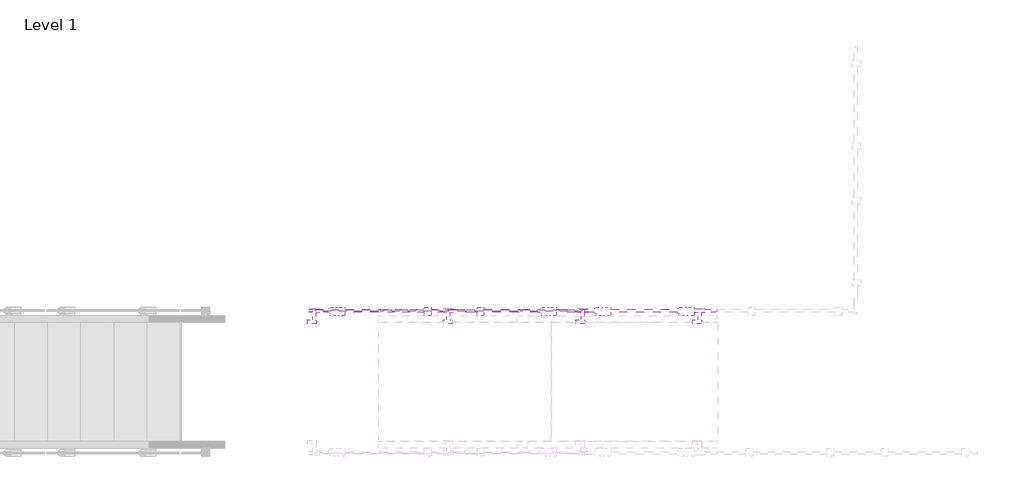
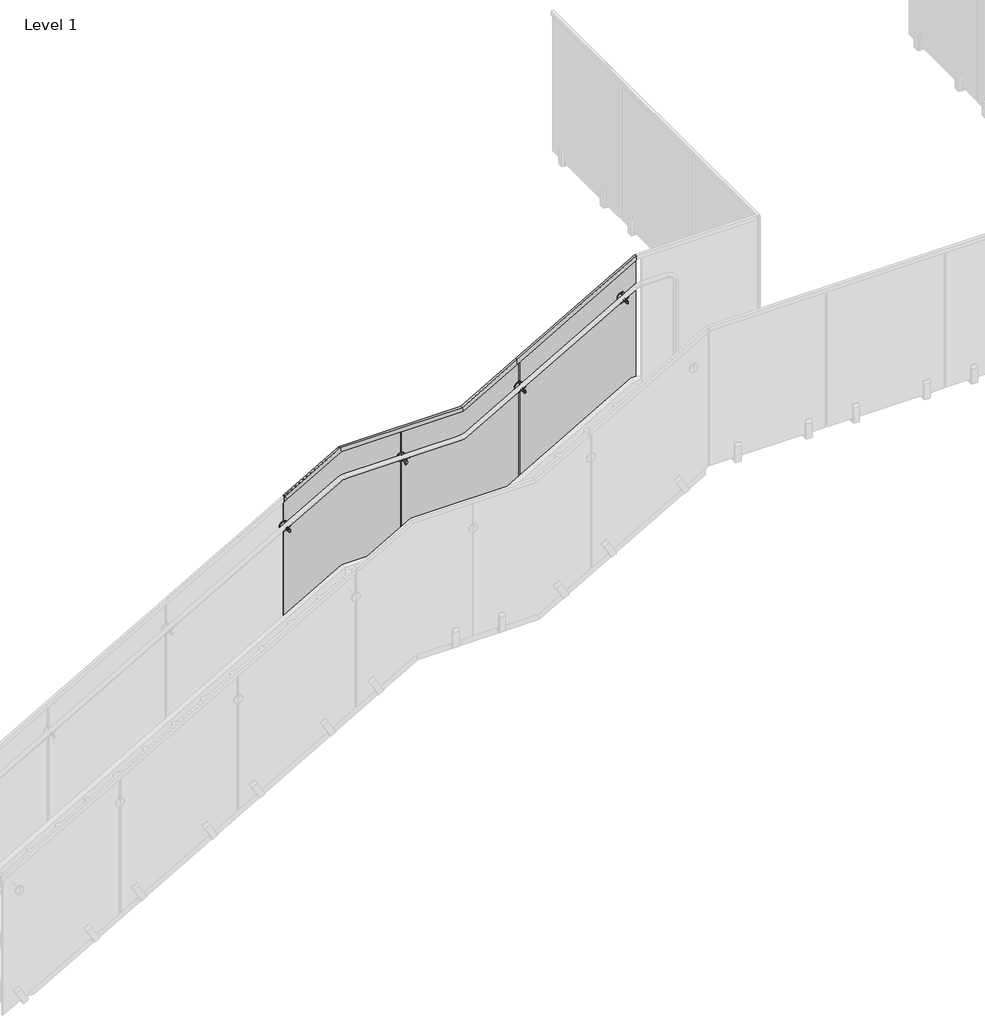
# One storey, part 11 of 17: 4 railings.
"""IFC4 building model written with IfcOpenShell, lengths in millimetres."""

from ifc_helpers import new_model, si_unit, point, frame, frame_2d, origin, place, context, project, spatial, polyline, circle_curve, trimmed, segment, composite_curve, outline, extrude, faceted_brep, transform, mapped, element, save
from ifc_brep_helpers import plane_surface, cylinder_surface, revolved_surface, advanced_brep
from components import standard_glass_7c6d0ad3, standard_glass_aa243ce5

model = new_model("IFC4")

# Units and contexts
model_context = context("Model", 3, world=origin())
ifc_project = project(units=[si_unit("LENGTHUNIT", "METRE", prefix="MILLI")], contexts=[model_context])

# Site, building, storey
site = spatial("IfcSite", under=ifc_project)
building = spatial("IfcBuilding", under=site)
storey = spatial("IfcBuildingStorey", under=building, Name="Level 1", Elevation=0.0)

# Railings
placement = place(None, origin())
element("IfcRailing", 1, ObjectType="VIVA-VISIO-Glass-Steel Fascia Mount-Stair-Landing", at=placement, inside=storey, context=model_context, shape_type="SolidModel", body=[
    faceted_brep([(27379.4112561, -11562.8278486, 2993.5714286), (27379.4112561, -11584.5567549, 2993.5714286), (27862.0112561, -11584.5567549, 3269.3428571), (27862.0112561, -11562.8278486, 3269.3428571), (27398.3141496, -11562.8278486, 2960.4913649), (27872.1292611, -11562.8278486, 3231.2428571), (27398.3141496, -11567.3423017, 2960.4913649), (27872.1292611, -11567.3423017, 3231.2428571), (27381.3015454, -11567.3423017, 2990.2634222), (27863.0230566, -11567.3423017, 3265.5328571), (27381.3015454, -11580.0423017, 2990.2634222), (27863.0230566, -11580.0423017, 3265.5328571), (27398.3141496, -11580.0423017, 2960.4913649), (27872.1292611, -11580.0423017, 3231.2428571), (27398.3141496, -11584.5567549, 2960.4913649), (27872.1292611, -11584.5567549, 3231.2428571), (28928.8112561, -11584.5567549, 3269.3428571), (28928.8112561, -11562.8278486, 3269.3428571), (28938.9292611, -11562.8278486, 3231.2428571), (28938.9292611, -11567.3423017, 3231.2428571), (28929.8230566, -11567.3423017, 3265.5328571), (28929.8230566, -11580.0423017, 3265.5328571), (28938.9292611, -11580.0423017, 3231.2428571), (28938.9292611, -11584.5567549, 3231.2428571), (29407.4425061, -11584.5567549, 3542.8464286), (29407.4425061, -11584.5567549, 3498.9647114), (29407.4425061, -11580.0423017, 3498.9647114), (29407.4425061, -11580.0423017, 3538.4582569), (29407.4425061, -11567.3423017, 3538.4582569), (29407.4425061, -11567.3423017, 3498.9647114), (29407.4425061, -11562.8278486, 3498.9647114), (29407.4425061, -11562.8278486, 3542.8464286), (27369.8862561, -11584.5567549, 2988.1285714), (27369.8862561, -11562.8278486, 2988.1285714), (27369.8862561, -11562.8278486, 2944.2468543), (27369.8862561, -11567.3423017, 2944.2468543), (27369.8862561, -11567.3423017, 2983.7403997), (27369.8862561, -11580.0423017, 2983.7403997), (27369.8862561, -11580.0423017, 2944.2468543), (27369.8862561, -11584.5567549, 2944.2468543)], [[[0, 1, 2, 3]], [[4, 0, 3, 5]], [[6, 4, 5, 7]], [[8, 6, 7, 9]], [[10, 8, 9, 11]], [[12, 10, 11, 13]], [[14, 12, 13, 15]], [[1, 14, 15, 2]], [[3, 2, 16, 17]], [[5, 3, 17, 18]], [[7, 5, 18, 19]], [[9, 7, 19, 20]], [[11, 9, 20, 21]], [[13, 11, 21, 22]], [[15, 13, 22, 23]], [[2, 15, 23, 16]], [[24, 25, 26, 27, 28, 29, 30, 31]], [[17, 16, 24, 31]], [[18, 17, 31, 30]], [[19, 18, 30, 29]], [[20, 19, 29, 28]], [[21, 20, 28, 27]], [[22, 21, 27, 26]], [[23, 22, 26, 25]], [[16, 23, 25, 24]], [[32, 33, 34, 35, 36, 37, 38, 39]], [[33, 32, 1, 0]], [[34, 33, 0, 4]], [[35, 34, 4, 6]], [[36, 35, 6, 8]], [[37, 36, 8, 10]], [[38, 37, 10, 12]], [[39, 38, 12, 14]], [[32, 39, 14, 1]]]),
    extrude(outline(polyline([(0.0, -12.7), (0.0, 0.0), (50.8, 0.0), (50.8, -12.7), (0.0, -12.7)])), frame((29178.329198, -11599.1617549, 2085.3316006), z_axis=(-0.4961389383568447, 0.0, 0.868243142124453), x_axis=(0.868243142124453, 0.0, 0.4961389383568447)), (0.0, 0.0, 1.0), 135.5680003),
    extrude(outline(polyline([(0.0, -12.7), (0.0, 0.0), (50.8, 0.0), (50.8, -12.7), (0.0, -12.7)])), frame((29179.5727872, -11567.4117549, 2083.1553196), z_axis=(-0.496138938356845, 0.0, 0.8682431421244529), x_axis=(0.8682431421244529, 0.0, 0.496138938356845)), (0.0, 0.0, 1.0), 36.5125),
    extrude(outline(polyline([(0.0, 0.0), (139.7, 0.0), (166.6875, -11.1125), (166.6875, -19.05), (0.0, -19.05), (0.0, 0.0)])), frame((29179.5727872, -11599.1617549, 2083.1553196), z_axis=(0.868243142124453, 0.0, 0.49613893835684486), x_axis=(-0.49613893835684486, 0.0, 0.868243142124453)), (0.0, 0.0, 1.0), 50.8),
    extrude(outline(polyline([(0.0, -50.8), (0.0, -31.75), (166.6875, -31.75), (166.6875, -39.6875), (139.7, -50.8), (0.0, -50.8)])), frame((29179.5727872, -11599.1617549, 2083.1553196), z_axis=(0.868243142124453, 0.0, 0.49613893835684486), x_axis=(-0.49613893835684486, 0.0, 0.868243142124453)), (0.0, 0.0, 1.0), 50.8),
    extrude(outline(polyline([(28616.8479341, -11611.8617549), (28616.8479341, -11599.1617549), (28667.6479341, -11599.1617549), (28667.6479341, -11611.8617549), (28616.8479341, -11611.8617549)])), frame((0.0, 0.0, 1969.2196818), z_axis=(0.0, 0.0, 1.0), x_axis=(1.0, 0.0, 0.0)), (0.0, 0.0, 1.0), 135.5680003),
    extrude(outline(polyline([(28616.8479341, -11580.1117549), (28616.8479341, -11567.4117549), (28667.6479341, -11567.4117549), (28667.6479341, -11580.1117549), (28616.8479341, -11580.1117549)])), frame((0.0, 0.0, 1966.7131478), z_axis=(0.0, 0.0, 1.0), x_axis=(1.0, 0.0, 0.0)), (0.0, 0.0, 1.0), 36.5125),
    extrude(outline(polyline([(-11599.1617549, 1966.7131478), (-11599.1617549, 2106.4131478), (-11588.0492549, 2133.4006478), (-11580.1117549, 2133.4006478), (-11580.1117549, 1966.7131478), (-11599.1617549, 1966.7131478)])), frame((28616.8479341, 0.0, 0.0), z_axis=(1.0, 0.0, 0.0), x_axis=(0.0, 1.0, 0.0)), (0.0, 0.0, 1.0), 50.8),
    extrude(outline(polyline([(-11548.3617549, 1966.7131478), (-11567.4117549, 1966.7131478), (-11567.4117549, 2133.4006478), (-11559.4742549, 2133.4006478), (-11548.3617549, 2106.4131478), (-11548.3617549, 1966.7131478)])), frame((28616.8479341, 0.0, 0.0), z_axis=(1.0, 0.0, 0.0), x_axis=(0.0, 1.0, 0.0)), (0.0, 0.0, 1.0), 50.8),
    extrude(outline(composite_curve([segment(trimmed(circle_curve(frame_2d((0.0, 7.0)), 7.0), [point((0.0, 14.0))], [point((0.0, 0.0))], False, "CARTESIAN"), True, "CONTINUOUS"), segment(trimmed(circle_curve(frame_2d((0.0, 7.0)), 7.0), [point((0.0, 0.0))], [point((0.0, 14.0))], False, "CARTESIAN"), True, "CONTINUOUS")], self_intersect=False)), frame((28393.4268811, -11648.9816158, 2977.3279722), z_axis=(-0.0016124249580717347, 0.0, 0.9999987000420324), x_axis=(-0.9999987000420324, 0.0, -0.0016124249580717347)), (0.0, 0.0, 1.0), 52.8378352),
    extrude(outline(composite_curve([segment(trimmed(circle_curve(frame_2d((18.6575252, 0.3952033)), 19.05), [point((5.2466064, 13.9247915))], [point((5.2466064, -13.134385))], True, "CARTESIAN"), True, "CONTINUOUS"), segment(polyline([(5.2466064, -13.134385), (4.2292193, -14.1607746)]), True, "CONTINUOUS"), segment(trimmed(circle_curve(frame_2d((3.1638974, -13.1047967)), 1.5), [point((4.2292193, -14.1607746))], [point((2.0329757, -14.0901982))], False, "CARTESIAN"), True, "CONTINUOUS"), segment(trimmed(circle_curve(frame_2d((18.6575252, 0.3952033)), 22.05), [point((2.0329757, -14.0901982))], [point((2.0329757, 14.8806047))], False, "CARTESIAN"), True, "CONTINUOUS"), segment(trimmed(circle_curve(frame_2d((3.1638974, 13.8952033)), 1.5), [point((2.0329757, 14.8806047))], [point((4.2292193, 14.9511811))], False, "CARTESIAN"), True, "CONTINUOUS"), segment(polyline([(4.2292193, 14.9511811), (5.2466064, 13.9247915)]), True, "CONTINUOUS")], self_intersect=False)), frame((28429.1944392, -11657.7088481, 3033.4996008), z_axis=(-0.9999989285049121, 0.0, 0.0014638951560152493), x_axis=(0.0014638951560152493, 0.0, 0.9999989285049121)), (0.0, 0.0, 1.0), 74.5229187),
    extrude(outline(composite_curve([segment(trimmed(circle_curve(frame_2d((3002.8968571, 28393.4268811)), 11.0132813), [point((3002.8968571, 28404.4401623))], [point((3002.8968571, 28382.4135998))], False, "CARTESIAN"), True, "CONTINUOUS"), segment(trimmed(circle_curve(frame_2d((3002.8968571, 28393.4268811)), 11.0132813), [point((3002.8968571, 28382.4135998))], [point((3002.8968571, 28404.4401623))], False, "CARTESIAN"), True, "CONTINUOUS")], self_intersect=False)), frame((0.0, -11669.0117549, 0.0), z_axis=(0.0, 1.0, 0.0), x_axis=(0.0, 0.0, 1.0)), (0.0, 0.0, 1.0), 79.2757812),
    advanced_brep(
    [(28393.4268811, -11557.7875361, 3002.8968571), (28393.4268811, -11557.7875361, 2966.7812321), (28393.4268811, -11557.7875361, 3039.0124821), (28393.4268811, -11589.7359736, 2966.7812321), (28393.4268811, -11589.7359736, 3002.8968571), (28393.4268811, -11589.7359736, 3039.0124821), (28393.4268811, -11587.7515986, 2964.7968571), (28393.4268811, -11587.7515986, 3040.9968571), (28393.4268811, -11580.1117549, 2964.7968571), (28393.4268811, -11580.1117549, 3040.9968571), (28393.4268811, -11580.1117549, 2990.1968571), (28393.4268811, -11580.1117549, 3015.5968571), (28393.4268811, -11567.4117549, 2990.1968571), (28393.4268811, -11567.4117549, 3015.5968571), (28393.4268811, -11567.4117549, 2964.7968571), (28393.4268811, -11567.4117549, 3040.9968571), (28393.4268811, -11559.7719111, 2964.7968571), (28393.4268811, -11559.7719111, 3040.9968571)],
    [
        (0, 1),
        (1, 2, circle_curve(frame((28393.4268811, -11557.7875361, 3002.8968571), z_axis=(0.0, 1.0, 0.0), x_axis=(0.0, 0.0, 1.0)), 36.115625)),
        (2, 0),
        (2, 1, circle_curve(frame((28393.4268811, -11557.7875361, 3002.8968571), z_axis=(0.0, 1.0, 0.0), x_axis=(0.0, 0.0, 1.0)), 36.115625)),
        (3, 4),
        (4, 5),
        (5, 3, circle_curve(frame((28393.4268811, -11589.7359736, 3002.8968571), z_axis=(0.0, -1.0, 0.0), x_axis=(0.0, 0.0, 1.0)), 36.115625)),
        (3, 5, circle_curve(frame((28393.4268811, -11589.7359736, 3002.8968571), z_axis=(0.0, -1.0, 0.0), x_axis=(0.0, 0.0, 1.0)), 36.115625)),
        (6, 3),
        (5, 7),
        (7, 6, circle_curve(frame((28393.4268811, -11587.7515986, 3002.8968571), z_axis=(0.0, -1.0, 0.0), x_axis=(0.0, 0.0, 1.0)), 38.1)),
        (6, 7, circle_curve(frame((28393.4268811, -11587.7515986, 3002.8968571), z_axis=(0.0, -1.0, 0.0), x_axis=(0.0, 0.0, 1.0)), 38.1)),
        (8, 6),
        (7, 9),
        (9, 8, circle_curve(frame((28393.4268811, -11580.1117549, 3002.8968571), z_axis=(0.0, -1.0, 0.0), x_axis=(0.0, 0.0, 1.0)), 38.1)),
        (8, 9, circle_curve(frame((28393.4268811, -11580.1117549, 3002.8968571), z_axis=(0.0, -1.0, 0.0), x_axis=(0.0, 0.0, 1.0)), 38.1)),
        (10, 8),
        (9, 11),
        (11, 10, circle_curve(frame((28393.4268811, -11580.1117549, 3002.8968571), z_axis=(0.0, -1.0, 0.0), x_axis=(0.0, 0.0, 1.0)), 12.7)),
        (10, 11, circle_curve(frame((28393.4268811, -11580.1117549, 3002.8968571), z_axis=(0.0, -1.0, 0.0), x_axis=(0.0, 0.0, 1.0)), 12.7)),
        (12, 10),
        (11, 13),
        (13, 12, circle_curve(frame((28393.4268811, -11567.4117549, 3002.8968571), z_axis=(0.0, -1.0, 0.0), x_axis=(0.0, 0.0, 1.0)), 12.7)),
        (12, 13, circle_curve(frame((28393.4268811, -11567.4117549, 3002.8968571), z_axis=(0.0, -1.0, 0.0), x_axis=(0.0, 0.0, 1.0)), 12.7)),
        (14, 12),
        (13, 15),
        (15, 14, circle_curve(frame((28393.4268811, -11567.4117549, 3002.8968571), z_axis=(0.0, -1.0, 0.0), x_axis=(0.0, 0.0, 1.0)), 38.1)),
        (14, 15, circle_curve(frame((28393.4268811, -11567.4117549, 3002.8968571), z_axis=(0.0, -1.0, 0.0), x_axis=(0.0, 0.0, 1.0)), 38.1)),
        (16, 14),
        (15, 17),
        (17, 16, circle_curve(frame((28393.4268811, -11559.7719111, 3002.8968571), z_axis=(0.0, -1.0, 0.0), x_axis=(0.0, 0.0, 1.0)), 38.1)),
        (16, 17, circle_curve(frame((28393.4268811, -11559.7719111, 3002.8968571), z_axis=(0.0, -1.0, 0.0), x_axis=(0.0, 0.0, 1.0)), 38.1)),
        (1, 16),
        (17, 2),
    ],
    [
        plane_surface(frame((28393.4268811, -11557.7875361, 3002.8968571), z_axis=(0.0, 1.0, 0.0), x_axis=(0.0, 0.0, 1.0))),
        plane_surface(frame((28393.4268811, -11589.7359736, 3002.8968571), z_axis=(0.0, -1.0, 0.0), x_axis=(0.0, 0.0, 1.0))),
        revolved_surface(polyline([(28393.4268811, -11589.7359736, 3039.0124821), (28393.4268811, -11587.7515986, 3040.9968571)]), (28393.4268811, -11521.6719111, 3002.8968571), (0.0, 1.0, 0.0)),
        cylinder_surface(frame((28393.4268811, -11521.6719111, 3002.8968571), z_axis=(0.0, 1.0, 0.0), x_axis=(0.0, 0.0, 1.0)), 38.1),
        plane_surface(frame((28393.4268811, -11580.1117549, 3002.8968571), z_axis=(0.0, 1.0, 0.0), x_axis=(0.0, 0.0, 1.0))),
        cylinder_surface(frame((28393.4268811, -11521.6719111, 3002.8968571), z_axis=(0.0, 1.0, 0.0), x_axis=(0.0, 0.0, 1.0)), 12.7),
        plane_surface(frame((28393.4268811, -11567.4117549, 3002.8968571), z_axis=(0.0, -1.0, 0.0), x_axis=(0.0, 0.0, 1.0))),
        revolved_surface(polyline([(28393.4268811, -11559.7719111, 3040.9968571), (28393.4268811, -11557.7875361, 3039.0124821)]), (28393.4268811, -11521.6719111, 3002.8968571), (0.0, 1.0, 0.0)),
    ],
    [
        (0, [[1, 2, 3]]),
        (0, [[-3, 4, -1]]),
        (1, [[5, 6, 7]]),
        (1, [[-6, -5, 8]]),
        (2, [[9, -7, 10, 11]]),
        (2, [[-10, -8, -9, 12]]),
        (3, [[13, -11, 14, 15]]),
        (3, [[-14, -12, -13, 16]]),
        (4, [[17, -15, 18, 19]]),
        (4, [[-18, -16, -17, 20]]),
        (5, [[21, -19, 22, 23]]),
        (5, [[-22, -20, -21, 24]]),
        (6, [[25, -23, 26, 27]]),
        (6, [[-26, -24, -25, 28]]),
        (3, [[29, -27, 30, 31]]),
        (3, [[-30, -28, -29, 32]]),
        (7, [[33, -31, 34, -2]]),
        (7, [[-34, -32, -33, -4]]),
    ],
),
    extrude(outline(polyline([(28211.2416841, -11611.8617549), (28211.2416841, -11599.1617549), (28262.0416841, -11599.1617549), (28262.0416841, -11611.8617549), (28211.2416841, -11611.8617549)])), frame((0.0, 0.0, 1969.2196818), z_axis=(0.0, 0.0, 1.0), x_axis=(1.0, 0.0, 0.0)), (0.0, 0.0, 1.0), 135.5680003),
    extrude(outline(polyline([(28211.2416841, -11580.1117549), (28211.2416841, -11567.4117549), (28262.0416841, -11567.4117549), (28262.0416841, -11580.1117549), (28211.2416841, -11580.1117549)])), frame((0.0, 0.0, 1966.7131478), z_axis=(0.0, 0.0, 1.0), x_axis=(1.0, 0.0, 0.0)), (0.0, 0.0, 1.0), 36.5125),
    extrude(outline(polyline([(-11599.1617549, 1966.7131478), (-11599.1617549, 2106.4131478), (-11588.0492549, 2133.4006478), (-11580.1117549, 2133.4006478), (-11580.1117549, 1966.7131478), (-11599.1617549, 1966.7131478)])), frame((28211.2416841, 0.0, 0.0), z_axis=(1.0, 0.0, 0.0), x_axis=(0.0, 1.0, 0.0)), (0.0, 0.0, 1.0), 50.8),
    extrude(outline(polyline([(-11548.3617549, 1966.7131478), (-11567.4117549, 1966.7131478), (-11567.4117549, 2133.4006478), (-11559.4742549, 2133.4006478), (-11548.3617549, 2106.4131478), (-11548.3617549, 1966.7131478)])), frame((28211.2416841, 0.0, 0.0), z_axis=(1.0, 0.0, 0.0), x_axis=(0.0, 1.0, 0.0)), (0.0, 0.0, 1.0), 50.8),
    extrude(outline(polyline([(0.0, -12.7), (0.0, 0.0), (50.8, 0.0), (50.8, -12.7), (0.0, -12.7)])), frame((27555.904198, -11599.1617549, 1767.8316006), z_axis=(-0.4961389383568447, 0.0, 0.868243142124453), x_axis=(0.868243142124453, 0.0, 0.4961389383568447)), (0.0, 0.0, 1.0), 135.5680003),
    extrude(outline(polyline([(0.0, -12.7), (0.0, 0.0), (50.8, 0.0), (50.8, -12.7), (0.0, -12.7)])), frame((27557.1477872, -11567.4117549, 1765.6553196), z_axis=(-0.496138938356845, 0.0, 0.8682431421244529), x_axis=(0.8682431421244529, 0.0, 0.496138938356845)), (0.0, 0.0, 1.0), 36.5125),
    extrude(outline(polyline([(0.0, 0.0), (139.7, 0.0), (166.6875, -11.1125), (166.6875, -19.05), (0.0, -19.05), (0.0, 0.0)])), frame((27557.1477872, -11599.1617549, 1765.6553196), z_axis=(0.868243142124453, 0.0, 0.49613893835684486), x_axis=(-0.49613893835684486, 0.0, 0.868243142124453)), (0.0, 0.0, 1.0), 50.8),
    extrude(outline(polyline([(0.0, -50.8), (0.0, -31.75), (166.6875, -31.75), (166.6875, -39.6875), (139.7, -50.8), (0.0, -50.8)])), frame((27557.1477872, -11599.1617549, 1765.6553196), z_axis=(0.868243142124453, 0.0, 0.49613893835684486), x_axis=(-0.49613893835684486, 0.0, 0.868243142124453)), (0.0, 0.0, 1.0), 50.8),
    extrude(outline(composite_curve([segment(trimmed(circle_curve(frame_2d((0.0, 7.0)), 7.0), [point((0.0, 14.0))], [point((0.0, 0.0))], False, "CARTESIAN"), True, "CONTINUOUS"), segment(trimmed(circle_curve(frame_2d((0.0, 7.0)), 7.0), [point((0.0, 0.0))], [point((0.0, 14.0))], False, "CARTESIAN"), True, "CONTINUOUS")], self_intersect=False)), frame((29438.0186992, -11648.9816158, 3273.5679131), z_axis=(-0.5018548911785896, 0.0, 0.8649518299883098), x_axis=(-0.8649518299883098, 0.0, -0.5018548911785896)), (0.0, 0.0, 1.0), 52.8378352),
    extrude(outline(composite_curve([segment(polyline([(5.2466064, -13.9247915), (4.2292193, -14.9511811)]), True, "CONTINUOUS"), segment(trimmed(circle_curve(frame_2d((3.1638974, -13.8952033)), 1.5), [point((4.2292193, -14.9511811))], [point((2.0329757, -14.8806047))], False, "CARTESIAN"), True, "CONTINUOUS"), segment(trimmed(circle_curve(frame_2d((18.6575252, -0.3952033)), 22.05), [point((2.0329757, -14.8806047))], [point((2.0329757, 14.0901982))], False, "CARTESIAN"), True, "CONTINUOUS"), segment(trimmed(circle_curve(frame_2d((3.1638974, 13.1047967)), 1.5), [point((2.0329757, 14.0901982))], [point((4.2292193, 14.1607746))], False, "CARTESIAN"), True, "CONTINUOUS"), segment(polyline([(4.2292193, 14.1607746), (5.2466064, 13.134385)]), True, "CONTINUOUS"), segment(trimmed(circle_curve(frame_2d((18.6575252, -0.3952033)), 19.05), [point((5.2466064, 13.134385))], [point((5.2466064, -13.9247915))], True, "CARTESIAN"), True, "CONTINUOUS")], self_intersect=False)), frame((29373.5509171, -11657.7088481, 3301.3090959), z_axis=(0.8664916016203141, 0.0, 0.49919165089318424), x_axis=(-0.49919165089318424, 0.0, 0.8664916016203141)), (0.0, 0.0, 1.0), 74.5229187),
    extrude(outline(composite_curve([segment(trimmed(circle_curve(frame_2d((3295.7044286, 29425.2225061)), 11.0132813), [point((3295.7044286, 29436.2357873))], [point((3295.7044286, 29414.2092248))], False, "CARTESIAN"), True, "CONTINUOUS"), segment(trimmed(circle_curve(frame_2d((3295.7044286, 29425.2225061)), 11.0132813), [point((3295.7044286, 29414.2092248))], [point((3295.7044286, 29436.2357873))], False, "CARTESIAN"), True, "CONTINUOUS")], self_intersect=False)), frame((0.0, -11669.0117549, 0.0), z_axis=(0.0, 1.0, 0.0), x_axis=(0.0, 0.0, 1.0)), (0.0, 0.0, 1.0), 79.2757812),
    advanced_brep(
    [(29425.2225061, -11557.7875361, 3295.7044286), (29425.2225061, -11557.7875361, 3259.5888036), (29425.2225061, -11557.7875361, 3331.8200536), (29425.2225061, -11589.7359736, 3259.5888036), (29425.2225061, -11589.7359736, 3295.7044286), (29425.2225061, -11589.7359736, 3331.8200536), (29425.2225061, -11587.7515986, 3257.6044286), (29425.2225061, -11587.7515986, 3333.8044286), (29425.2225061, -11580.1117549, 3257.6044286), (29425.2225061, -11580.1117549, 3333.8044286), (29425.2225061, -11580.1117549, 3283.0044286), (29425.2225061, -11580.1117549, 3308.4044286), (29425.2225061, -11567.4117549, 3283.0044286), (29425.2225061, -11567.4117549, 3308.4044286), (29425.2225061, -11567.4117549, 3257.6044286), (29425.2225061, -11567.4117549, 3333.8044286), (29425.2225061, -11559.7719111, 3257.6044286), (29425.2225061, -11559.7719111, 3333.8044286)],
    [
        (0, 1),
        (1, 2, circle_curve(frame((29425.2225061, -11557.7875361, 3295.7044286), z_axis=(0.0, 1.0, 0.0), x_axis=(0.0, 0.0, 1.0)), 36.115625)),
        (2, 0),
        (2, 1, circle_curve(frame((29425.2225061, -11557.7875361, 3295.7044286), z_axis=(0.0, 1.0, 0.0), x_axis=(0.0, 0.0, 1.0)), 36.115625)),
        (3, 4),
        (4, 5),
        (5, 3, circle_curve(frame((29425.2225061, -11589.7359736, 3295.7044286), z_axis=(0.0, -1.0, 0.0), x_axis=(0.0, 0.0, 1.0)), 36.115625)),
        (3, 5, circle_curve(frame((29425.2225061, -11589.7359736, 3295.7044286), z_axis=(0.0, -1.0, 0.0), x_axis=(0.0, 0.0, 1.0)), 36.115625)),
        (6, 3),
        (5, 7),
        (7, 6, circle_curve(frame((29425.2225061, -11587.7515986, 3295.7044286), z_axis=(0.0, -1.0, 0.0), x_axis=(0.0, 0.0, 1.0)), 38.1)),
        (6, 7, circle_curve(frame((29425.2225061, -11587.7515986, 3295.7044286), z_axis=(0.0, -1.0, 0.0), x_axis=(0.0, 0.0, 1.0)), 38.1)),
        (8, 6),
        (7, 9),
        (9, 8, circle_curve(frame((29425.2225061, -11580.1117549, 3295.7044286), z_axis=(0.0, -1.0, 0.0), x_axis=(0.0, 0.0, 1.0)), 38.1)),
        (8, 9, circle_curve(frame((29425.2225061, -11580.1117549, 3295.7044286), z_axis=(0.0, -1.0, 0.0), x_axis=(0.0, 0.0, 1.0)), 38.1)),
        (10, 8),
        (9, 11),
        (11, 10, circle_curve(frame((29425.2225061, -11580.1117549, 3295.7044286), z_axis=(0.0, -1.0, 0.0), x_axis=(0.0, 0.0, 1.0)), 12.7)),
        (10, 11, circle_curve(frame((29425.2225061, -11580.1117549, 3295.7044286), z_axis=(0.0, -1.0, 0.0), x_axis=(0.0, 0.0, 1.0)), 12.7)),
        (12, 10),
        (11, 13),
        (13, 12, circle_curve(frame((29425.2225061, -11567.4117549, 3295.7044286), z_axis=(0.0, -1.0, 0.0), x_axis=(0.0, 0.0, 1.0)), 12.7)),
        (12, 13, circle_curve(frame((29425.2225061, -11567.4117549, 3295.7044286), z_axis=(0.0, -1.0, 0.0), x_axis=(0.0, 0.0, 1.0)), 12.7)),
        (14, 12),
        (13, 15),
        (15, 14, circle_curve(frame((29425.2225061, -11567.4117549, 3295.7044286), z_axis=(0.0, -1.0, 0.0), x_axis=(0.0, 0.0, 1.0)), 38.1)),
        (14, 15, circle_curve(frame((29425.2225061, -11567.4117549, 3295.7044286), z_axis=(0.0, -1.0, 0.0), x_axis=(0.0, 0.0, 1.0)), 38.1)),
        (16, 14),
        (15, 17),
        (17, 16, circle_curve(frame((29425.2225061, -11559.7719111, 3295.7044286), z_axis=(0.0, -1.0, 0.0), x_axis=(0.0, 0.0, 1.0)), 38.1)),
        (16, 17, circle_curve(frame((29425.2225061, -11559.7719111, 3295.7044286), z_axis=(0.0, -1.0, 0.0), x_axis=(0.0, 0.0, 1.0)), 38.1)),
        (1, 16),
        (17, 2),
    ],
    [
        plane_surface(frame((29425.2225061, -11557.7875361, 3295.7044286), z_axis=(0.0, 1.0, 0.0), x_axis=(0.0, 0.0, 1.0))),
        plane_surface(frame((29425.2225061, -11589.7359736, 3295.7044286), z_axis=(0.0, -1.0, 0.0), x_axis=(0.0, 0.0, 1.0))),
        revolved_surface(polyline([(29425.2225061, -11589.7359736, 3331.8200536), (29425.2225061, -11587.7515986, 3333.8044286)]), (29425.2225061, -11521.6719111, 3295.7044286), (0.0, 1.0, 0.0)),
        cylinder_surface(frame((29425.2225061, -11521.6719111, 3295.7044286), z_axis=(0.0, 1.0, 0.0), x_axis=(0.0, 0.0, 1.0)), 38.1),
        plane_surface(frame((29425.2225061, -11580.1117549, 3295.7044286), z_axis=(0.0, 1.0, 0.0), x_axis=(0.0, 0.0, 1.0))),
        cylinder_surface(frame((29425.2225061, -11521.6719111, 3295.7044286), z_axis=(0.0, 1.0, 0.0), x_axis=(0.0, 0.0, 1.0)), 12.7),
        plane_surface(frame((29425.2225061, -11567.4117549, 3295.7044286), z_axis=(0.0, -1.0, 0.0), x_axis=(0.0, 0.0, 1.0))),
        revolved_surface(polyline([(29425.2225061, -11559.7719111, 3333.8044286), (29425.2225061, -11557.7875361, 3331.8200536)]), (29425.2225061, -11521.6719111, 3295.7044286), (0.0, 1.0, 0.0)),
    ],
    [
        (0, [[1, 2, 3]]),
        (0, [[-3, 4, -1]]),
        (1, [[5, 6, 7]]),
        (1, [[-6, -5, 8]]),
        (2, [[9, -7, 10, 11]]),
        (2, [[-10, -8, -9, 12]]),
        (3, [[13, -11, 14, 15]]),
        (3, [[-14, -12, -13, 16]]),
        (4, [[17, -15, 18, 19]]),
        (4, [[-18, -16, -17, 20]]),
        (5, [[21, -19, 22, 23]]),
        (5, [[-22, -20, -21, 24]]),
        (6, [[25, -23, 26, 27]]),
        (6, [[-26, -24, -25, 28]]),
        (3, [[29, -27, 30, 31]]),
        (3, [[-30, -28, -29, 32]]),
        (7, [[33, -31, 34, -2]]),
        (7, [[-34, -32, -33, -4]]),
    ],
),
    extrude(outline(composite_curve([segment(trimmed(circle_curve(frame_2d((0.0, 7.0)), 7.0), [point((0.0, 14.0))], [point((0.0, 0.0))], False, "CARTESIAN"), True, "CONTINUOUS"), segment(trimmed(circle_curve(frame_2d((0.0, 7.0)), 7.0), [point((0.0, 0.0))], [point((0.0, 14.0))], False, "CARTESIAN"), True, "CONTINUOUS")], self_intersect=False)), frame((27379.5074492, -11648.9816158, 2706.8757702), z_axis=(-0.5018548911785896, 0.0, 0.8649518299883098), x_axis=(-0.8649518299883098, 0.0, -0.5018548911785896)), (0.0, 0.0, 1.0), 52.8378352),
    extrude(outline(composite_curve([segment(polyline([(5.2466063, -13.9247915), (4.2292193, -14.9511811)]), True, "CONTINUOUS"), segment(trimmed(circle_curve(frame_2d((3.1638974, -13.8952033)), 1.5), [point((4.2292193, -14.9511811))], [point((2.0329756, -14.8806047))], False, "CARTESIAN"), True, "CONTINUOUS"), segment(trimmed(circle_curve(frame_2d((18.6575251, -0.3952033)), 22.05), [point((2.0329756, -14.8806047))], [point((2.0329756, 14.0901982))], False, "CARTESIAN"), True, "CONTINUOUS"), segment(trimmed(circle_curve(frame_2d((3.1638974, 13.1047967)), 1.5), [point((2.0329756, 14.0901982))], [point((4.2292193, 14.1607746))], False, "CARTESIAN"), True, "CONTINUOUS"), segment(polyline([(4.2292193, 14.1607746), (5.2466063, 13.134385)]), True, "CONTINUOUS"), segment(trimmed(circle_curve(frame_2d((18.6575251, -0.3952033)), 19.05), [point((5.2466063, 13.134385))], [point((5.2466063, -13.9247915))], True, "CARTESIAN"), True, "CONTINUOUS")], self_intersect=False)), frame((27315.0396672, -11657.7088481, 2734.6169531), z_axis=(0.8664916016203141, 0.0, 0.49919165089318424), x_axis=(-0.49919165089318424, 0.0, 0.8664916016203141)), (0.0, 0.0, 1.0), 74.5229187),
    extrude(outline(composite_curve([segment(trimmed(circle_curve(frame_2d((2729.0122857, 27366.7112561)), 11.0132813), [point((2729.0122857, 27377.7245373))], [point((2729.0122857, 27355.6979748))], False, "CARTESIAN"), True, "CONTINUOUS"), segment(trimmed(circle_curve(frame_2d((2729.0122857, 27366.7112561)), 11.0132813), [point((2729.0122857, 27355.6979748))], [point((2729.0122857, 27377.7245373))], False, "CARTESIAN"), True, "CONTINUOUS")], self_intersect=False)), frame((0.0, -11669.0117549, 0.0), z_axis=(0.0, 1.0, 0.0), x_axis=(0.0, 0.0, 1.0)), (0.0, 0.0, 1.0), 79.2757812),
    advanced_brep(
    [(27366.7112561, -11557.7875361, 2729.0122857), (27366.7112561, -11557.7875361, 2692.8966607), (27366.7112561, -11557.7875361, 2765.1279107), (27366.7112561, -11589.7359736, 2692.8966607), (27366.7112561, -11589.7359736, 2729.0122857), (27366.7112561, -11589.7359736, 2765.1279107), (27366.7112561, -11587.7515986, 2690.9122857), (27366.7112561, -11587.7515986, 2767.1122857), (27366.7112561, -11580.1117549, 2690.9122857), (27366.7112561, -11580.1117549, 2767.1122857), (27366.7112561, -11580.1117549, 2716.3122857), (27366.7112561, -11580.1117549, 2741.7122857), (27366.7112561, -11567.4117549, 2716.3122857), (27366.7112561, -11567.4117549, 2741.7122857), (27366.7112561, -11567.4117549, 2690.9122857), (27366.7112561, -11567.4117549, 2767.1122857), (27366.7112561, -11559.7719111, 2690.9122857), (27366.7112561, -11559.7719111, 2767.1122857)],
    [
        (0, 1),
        (1, 2, circle_curve(frame((27366.7112561, -11557.7875361, 2729.0122857), z_axis=(0.0, 1.0, 0.0), x_axis=(0.0, 0.0, 1.0)), 36.115625)),
        (2, 0),
        (2, 1, circle_curve(frame((27366.7112561, -11557.7875361, 2729.0122857), z_axis=(0.0, 1.0, 0.0), x_axis=(0.0, 0.0, 1.0)), 36.115625)),
        (3, 4),
        (4, 5),
        (5, 3, circle_curve(frame((27366.7112561, -11589.7359736, 2729.0122857), z_axis=(0.0, -1.0, 0.0), x_axis=(0.0, 0.0, 1.0)), 36.115625)),
        (3, 5, circle_curve(frame((27366.7112561, -11589.7359736, 2729.0122857), z_axis=(0.0, -1.0, 0.0), x_axis=(0.0, 0.0, 1.0)), 36.115625)),
        (6, 3),
        (5, 7),
        (7, 6, circle_curve(frame((27366.7112561, -11587.7515986, 2729.0122857), z_axis=(0.0, -1.0, 0.0), x_axis=(0.0, 0.0, 1.0)), 38.1)),
        (6, 7, circle_curve(frame((27366.7112561, -11587.7515986, 2729.0122857), z_axis=(0.0, -1.0, 0.0), x_axis=(0.0, 0.0, 1.0)), 38.1)),
        (8, 6),
        (7, 9),
        (9, 8, circle_curve(frame((27366.7112561, -11580.1117549, 2729.0122857), z_axis=(0.0, -1.0, 0.0), x_axis=(0.0, 0.0, 1.0)), 38.1)),
        (8, 9, circle_curve(frame((27366.7112561, -11580.1117549, 2729.0122857), z_axis=(0.0, -1.0, 0.0), x_axis=(0.0, 0.0, 1.0)), 38.1)),
        (10, 8),
        (9, 11),
        (11, 10, circle_curve(frame((27366.7112561, -11580.1117549, 2729.0122857), z_axis=(0.0, -1.0, 0.0), x_axis=(0.0, 0.0, 1.0)), 12.7)),
        (10, 11, circle_curve(frame((27366.7112561, -11580.1117549, 2729.0122857), z_axis=(0.0, -1.0, 0.0), x_axis=(0.0, 0.0, 1.0)), 12.7)),
        (12, 10),
        (11, 13),
        (13, 12, circle_curve(frame((27366.7112561, -11567.4117549, 2729.0122857), z_axis=(0.0, -1.0, 0.0), x_axis=(0.0, 0.0, 1.0)), 12.7)),
        (12, 13, circle_curve(frame((27366.7112561, -11567.4117549, 2729.0122857), z_axis=(0.0, -1.0, 0.0), x_axis=(0.0, 0.0, 1.0)), 12.7)),
        (14, 12),
        (13, 15),
        (15, 14, circle_curve(frame((27366.7112561, -11567.4117549, 2729.0122857), z_axis=(0.0, -1.0, 0.0), x_axis=(0.0, 0.0, 1.0)), 38.1)),
        (14, 15, circle_curve(frame((27366.7112561, -11567.4117549, 2729.0122857), z_axis=(0.0, -1.0, 0.0), x_axis=(0.0, 0.0, 1.0)), 38.1)),
        (16, 14),
        (15, 17),
        (17, 16, circle_curve(frame((27366.7112561, -11559.7719111, 2729.0122857), z_axis=(0.0, -1.0, 0.0), x_axis=(0.0, 0.0, 1.0)), 38.1)),
        (16, 17, circle_curve(frame((27366.7112561, -11559.7719111, 2729.0122857), z_axis=(0.0, -1.0, 0.0), x_axis=(0.0, 0.0, 1.0)), 38.1)),
        (1, 16),
        (17, 2),
    ],
    [
        plane_surface(frame((27366.7112561, -11557.7875361, 2729.0122857), z_axis=(0.0, 1.0, 0.0), x_axis=(0.0, 0.0, 1.0))),
        plane_surface(frame((27366.7112561, -11589.7359736, 2729.0122857), z_axis=(0.0, -1.0, 0.0), x_axis=(0.0, 0.0, 1.0))),
        revolved_surface(polyline([(27366.7112561, -11589.7359736, 2765.1279107), (27366.7112561, -11587.7515986, 2767.1122857)]), (27366.7112561, -11521.6719111, 2729.0122857), (0.0, 1.0, 0.0)),
        cylinder_surface(frame((27366.7112561, -11521.6719111, 2729.0122857), z_axis=(0.0, 1.0, 0.0), x_axis=(0.0, 0.0, 1.0)), 38.1),
        plane_surface(frame((27366.7112561, -11580.1117549, 2729.0122857), z_axis=(0.0, 1.0, 0.0), x_axis=(0.0, 0.0, 1.0))),
        cylinder_surface(frame((27366.7112561, -11521.6719111, 2729.0122857), z_axis=(0.0, 1.0, 0.0), x_axis=(0.0, 0.0, 1.0)), 12.7),
        plane_surface(frame((27366.7112561, -11567.4117549, 2729.0122857), z_axis=(0.0, -1.0, 0.0), x_axis=(0.0, 0.0, 1.0))),
        revolved_surface(polyline([(27366.7112561, -11559.7719111, 2767.1122857), (27366.7112561, -11557.7875361, 2765.1279107)]), (27366.7112561, -11521.6719111, 2729.0122857), (0.0, 1.0, 0.0)),
    ],
    [
        (0, [[1, 2, 3]]),
        (0, [[-3, 4, -1]]),
        (1, [[5, 6, 7]]),
        (1, [[-6, -5, 8]]),
        (2, [[9, -7, 10, 11]]),
        (2, [[-10, -8, -9, 12]]),
        (3, [[13, -11, 14, 15]]),
        (3, [[-14, -12, -13, 16]]),
        (4, [[17, -15, 18, 19]]),
        (4, [[-18, -16, -17, 20]]),
        (5, [[21, -19, 22, 23]]),
        (5, [[-22, -20, -21, 24]]),
        (6, [[25, -23, 26, 27]]),
        (6, [[-26, -24, -25, 28]]),
        (3, [[29, -27, 30, 31]]),
        (3, [[-30, -28, -29, 32]]),
        (7, [[33, -31, 34, -2]]),
        (7, [[-34, -32, -33, -4]]),
    ],
),
])
element("IfcRailing", 2, ObjectType="VIVA-VISIO-Glass-Steel Fascia Mount-Stair_Upper", at=placement, inside=storey, context=model_context, shape_type="SolidModel", body=[
    faceted_brep([(29407.4425061, -11584.626208, 3542.8464286), (29407.4425061, -11562.8973017, 3542.8464286), (29407.4425061, -11562.8973017, 3498.9647114), (29407.4425061, -11567.4117549, 3498.9647114), (29407.4425061, -11567.4117549, 3538.4582569), (29407.4425061, -11580.1117549, 3538.4582569), (29407.4425061, -11580.1117549, 3498.9647114), (29407.4425061, -11584.626208, 3498.9647114), (30452.8112561, -11584.626208, 4140.2), (30452.8112561, -11584.626208, 4096.3182828), (30452.8112561, -11580.1117549, 4096.3182828), (30452.8112561, -11580.1117549, 4135.8118283), (30452.8112561, -11567.4117549, 4135.8118283), (30452.8112561, -11567.4117549, 4096.3182828), (30452.8112561, -11562.8973017, 4096.3182828), (30452.8112561, -11562.8973017, 4140.2)], [[[0, 1, 2, 3, 4, 5, 6, 7]], [[8, 9, 10, 11, 12, 13, 14, 15]], [[1, 0, 8, 15]], [[2, 1, 15, 14]], [[3, 2, 14, 13]], [[4, 3, 13, 12]], [[5, 4, 12, 11]], [[6, 5, 11, 10]], [[7, 6, 10, 9]], [[0, 7, 9, 8]]]),
    extrude(outline(polyline([(0.0, -12.7), (0.0, 0.0), (50.8, 0.0), (50.8, -12.7), (0.0, -12.7)])), frame((30234.572323, -11599.231208, 2688.8991006), z_axis=(-0.4961389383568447, 0.0, 0.868243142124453), x_axis=(0.868243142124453, 0.0, 0.4961389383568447)), (0.0, 0.0, 1.0), 135.5680003),
    extrude(outline(polyline([(0.0, -12.7), (0.0, 0.0), (50.8, 0.0), (50.8, -12.7), (0.0, -12.7)])), frame((30235.8159122, -11567.481208, 2686.7228196), z_axis=(-0.496138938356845, 0.0, 0.8682431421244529), x_axis=(0.8682431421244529, 0.0, 0.496138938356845)), (0.0, 0.0, 1.0), 36.5125),
    extrude(outline(polyline([(0.0, 0.0), (139.7, 0.0), (166.6875, -11.1125), (166.6875, -19.05), (0.0, -19.05), (0.0, 0.0)])), frame((30235.8159122, -11599.231208, 2686.7228196), z_axis=(0.868243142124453, 0.0, 0.49613893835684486), x_axis=(-0.49613893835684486, 0.0, 0.868243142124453)), (0.0, 0.0, 1.0), 50.8),
    extrude(outline(polyline([(0.0, -50.8), (0.0, -31.75), (166.6875, -31.75), (166.6875, -39.6875), (139.7, -50.8), (0.0, -50.8)])), frame((30235.8159122, -11599.231208, 2686.7228196), z_axis=(0.868243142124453, 0.0, 0.49613893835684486), x_axis=(-0.49613893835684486, 0.0, 0.868243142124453)), (0.0, 0.0, 1.0), 50.8),
    extrude(outline(polyline([(4136.1482161, 30449.2255527), (3555.5767875, 29433.2255527), (2270.1903143, 29433.2255527), (2850.7617429, 30449.2255527), (4136.1482161, 30449.2255527)])), frame((0.0, -11580.181208, 0.0), z_axis=(0.0, 1.0, 0.0), x_axis=(0.0, 0.0, 1.0)), (0.0, 0.0, 1.0), 12.7),
    extrude(outline(polyline([(0.0, -12.7), (0.0, 0.0), (50.8, 0.0), (50.8, -12.7), (0.0, -12.7)])), frame((29594.492323, -11599.231208, 2323.1391006), z_axis=(-0.4961389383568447, 0.0, 0.868243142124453), x_axis=(0.868243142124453, 0.0, 0.4961389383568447)), (0.0, 0.0, 1.0), 135.5680003),
    extrude(outline(polyline([(0.0, -12.7), (0.0, 0.0), (50.8, 0.0), (50.8, -12.7), (0.0, -12.7)])), frame((29595.7359122, -11567.481208, 2320.9628196), z_axis=(-0.496138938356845, 0.0, 0.8682431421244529), x_axis=(0.8682431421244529, 0.0, 0.496138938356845)), (0.0, 0.0, 1.0), 36.5125),
    extrude(outline(polyline([(0.0, 0.0), (139.7, 0.0), (166.6875, -11.1125), (166.6875, -19.05), (0.0, -19.05), (0.0, 0.0)])), frame((29595.7359122, -11599.231208, 2320.9628196), z_axis=(0.868243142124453, 0.0, 0.49613893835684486), x_axis=(-0.49613893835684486, 0.0, 0.868243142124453)), (0.0, 0.0, 1.0), 50.8),
    extrude(outline(polyline([(0.0, -50.8), (0.0, -31.75), (166.6875, -31.75), (166.6875, -39.6875), (139.7, -50.8), (0.0, -50.8)])), frame((29595.7359122, -11599.231208, 2320.9628196), z_axis=(0.868243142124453, 0.0, 0.49613893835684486), x_axis=(-0.49613893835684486, 0.0, 0.868243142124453)), (0.0, 0.0, 1.0), 50.8),
    extrude(outline(composite_curve([segment(trimmed(circle_curve(frame_2d((0.0, 7.0)), 7.0), [point((0.0, 14.0))], [point((0.0, 0.0))], False, "CARTESIAN"), True, "CONTINUOUS"), segment(trimmed(circle_curve(frame_2d((0.0, 7.0)), 7.0), [point((0.0, 0.0))], [point((0.0, 14.0))], False, "CARTESIAN"), True, "CONTINUOUS")], self_intersect=False)), frame((30334.6386992, -11649.0510689, 3785.9221988), z_axis=(-0.5018548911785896, 0.0, 0.8649518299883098), x_axis=(-0.8649518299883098, 0.0, -0.5018548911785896)), (0.0, 0.0, 1.0), 52.8378352),
    extrude(outline(composite_curve([segment(polyline([(5.2466064, -13.9247916), (4.2292194, -14.9511812)]), True, "CONTINUOUS"), segment(trimmed(circle_curve(frame_2d((3.1638974, -13.8952034)), 1.5), [point((4.2292194, -14.9511812))], [point((2.0329757, -14.8806048))], False, "CARTESIAN"), True, "CONTINUOUS"), segment(trimmed(circle_curve(frame_2d((18.6575252, -0.3952034)), 22.05), [point((2.0329757, -14.8806048))], [point((2.0329757, 14.0901981))], False, "CARTESIAN"), True, "CONTINUOUS"), segment(trimmed(circle_curve(frame_2d((3.1638974, 13.1047966)), 1.5), [point((2.0329757, 14.0901981))], [point((4.2292194, 14.1607745))], False, "CARTESIAN"), True, "CONTINUOUS"), segment(polyline([(4.2292194, 14.1607745), (5.2466064, 13.1343849)]), True, "CONTINUOUS"), segment(trimmed(circle_curve(frame_2d((18.6575252, -0.3952034)), 19.05), [point((5.2466064, 13.1343849))], [point((5.2466064, -13.9247916))], True, "CARTESIAN"), True, "CONTINUOUS")], self_intersect=False)), frame((30270.1709171, -11657.7783013, 3813.6633816), z_axis=(0.8664916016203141, 0.0, 0.49919165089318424), x_axis=(-0.49919165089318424, 0.0, 0.8664916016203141)), (0.0, 0.0, 1.0), 74.5229187),
    extrude(outline(composite_curve([segment(trimmed(circle_curve(frame_2d((3808.0587143, 30321.8425061)), 11.0132813), [point((3808.0587143, 30332.8557873))], [point((3808.0587143, 30310.8292248))], False, "CARTESIAN"), True, "CONTINUOUS"), segment(trimmed(circle_curve(frame_2d((3808.0587143, 30321.8425061)), 11.0132813), [point((3808.0587143, 30310.8292248))], [point((3808.0587143, 30332.8557873))], False, "CARTESIAN"), True, "CONTINUOUS")], self_intersect=False)), frame((0.0, -11669.081208, 0.0), z_axis=(0.0, 1.0, 0.0), x_axis=(0.0, 0.0, 1.0)), (0.0, 0.0, 1.0), 79.2757812),
    advanced_brep(
    [(30321.8425061, -11557.8569892, 3808.0587143), (30321.8425061, -11557.8569892, 3771.9430893), (30321.8425061, -11557.8569892, 3844.1743393), (30321.8425061, -11589.8054267, 3771.9430893), (30321.8425061, -11589.8054267, 3808.0587143), (30321.8425061, -11589.8054267, 3844.1743393), (30321.8425061, -11587.8210517, 3769.9587143), (30321.8425061, -11587.8210517, 3846.1587143), (30321.8425061, -11580.181208, 3769.9587143), (30321.8425061, -11580.181208, 3846.1587143), (30321.8425061, -11580.181208, 3795.3587143), (30321.8425061, -11580.181208, 3820.7587143), (30321.8425061, -11567.481208, 3795.3587143), (30321.8425061, -11567.481208, 3820.7587143), (30321.8425061, -11567.481208, 3769.9587143), (30321.8425061, -11567.481208, 3846.1587143), (30321.8425061, -11559.8413642, 3769.9587143), (30321.8425061, -11559.8413642, 3846.1587143)],
    [
        (0, 1),
        (1, 2, circle_curve(frame((30321.8425061, -11557.8569892, 3808.0587143), z_axis=(0.0, 1.0, 0.0), x_axis=(0.0, 0.0, 1.0)), 36.115625)),
        (2, 0),
        (2, 1, circle_curve(frame((30321.8425061, -11557.8569892, 3808.0587143), z_axis=(0.0, 1.0, 0.0), x_axis=(0.0, 0.0, 1.0)), 36.115625)),
        (3, 4),
        (4, 5),
        (5, 3, circle_curve(frame((30321.8425061, -11589.8054267, 3808.0587143), z_axis=(0.0, -1.0, 0.0), x_axis=(0.0, 0.0, 1.0)), 36.115625)),
        (3, 5, circle_curve(frame((30321.8425061, -11589.8054267, 3808.0587143), z_axis=(0.0, -1.0, 0.0), x_axis=(0.0, 0.0, 1.0)), 36.115625)),
        (6, 3),
        (5, 7),
        (7, 6, circle_curve(frame((30321.8425061, -11587.8210517, 3808.0587143), z_axis=(0.0, -1.0, 0.0), x_axis=(0.0, 0.0, 1.0)), 38.1)),
        (6, 7, circle_curve(frame((30321.8425061, -11587.8210517, 3808.0587143), z_axis=(0.0, -1.0, 0.0), x_axis=(0.0, 0.0, 1.0)), 38.1)),
        (8, 6),
        (7, 9),
        (9, 8, circle_curve(frame((30321.8425061, -11580.181208, 3808.0587143), z_axis=(0.0, -1.0, 0.0), x_axis=(0.0, 0.0, 1.0)), 38.1)),
        (8, 9, circle_curve(frame((30321.8425061, -11580.181208, 3808.0587143), z_axis=(0.0, -1.0, 0.0), x_axis=(0.0, 0.0, 1.0)), 38.1)),
        (10, 8),
        (9, 11),
        (11, 10, circle_curve(frame((30321.8425061, -11580.181208, 3808.0587143), z_axis=(0.0, -1.0, 0.0), x_axis=(0.0, 0.0, 1.0)), 12.7)),
        (10, 11, circle_curve(frame((30321.8425061, -11580.181208, 3808.0587143), z_axis=(0.0, -1.0, 0.0), x_axis=(0.0, 0.0, 1.0)), 12.7)),
        (12, 10),
        (11, 13),
        (13, 12, circle_curve(frame((30321.8425061, -11567.481208, 3808.0587143), z_axis=(0.0, -1.0, 0.0), x_axis=(0.0, 0.0, 1.0)), 12.7)),
        (12, 13, circle_curve(frame((30321.8425061, -11567.481208, 3808.0587143), z_axis=(0.0, -1.0, 0.0), x_axis=(0.0, 0.0, 1.0)), 12.7)),
        (14, 12),
        (13, 15),
        (15, 14, circle_curve(frame((30321.8425061, -11567.481208, 3808.0587143), z_axis=(0.0, -1.0, 0.0), x_axis=(0.0, 0.0, 1.0)), 38.1)),
        (14, 15, circle_curve(frame((30321.8425061, -11567.481208, 3808.0587143), z_axis=(0.0, -1.0, 0.0), x_axis=(0.0, 0.0, 1.0)), 38.1)),
        (16, 14),
        (15, 17),
        (17, 16, circle_curve(frame((30321.8425061, -11559.8413642, 3808.0587143), z_axis=(0.0, -1.0, 0.0), x_axis=(0.0, 0.0, 1.0)), 38.1)),
        (16, 17, circle_curve(frame((30321.8425061, -11559.8413642, 3808.0587143), z_axis=(0.0, -1.0, 0.0), x_axis=(0.0, 0.0, 1.0)), 38.1)),
        (1, 16),
        (17, 2),
    ],
    [
        plane_surface(frame((30321.8425061, -11557.8569892, 3808.0587143), z_axis=(0.0, 1.0, 0.0), x_axis=(0.0, 0.0, 1.0))),
        plane_surface(frame((30321.8425061, -11589.8054267, 3808.0587143), z_axis=(0.0, -1.0, 0.0), x_axis=(0.0, 0.0, 1.0))),
        revolved_surface(polyline([(30321.8425061, -11589.8054267, 3844.1743393), (30321.8425061, -11587.8210517, 3846.1587143)]), (30321.8425061, -11521.7413642, 3808.0587143), (0.0, 1.0, 0.0)),
        cylinder_surface(frame((30321.8425061, -11521.7413642, 3808.0587143), z_axis=(0.0, 1.0, 0.0), x_axis=(0.0, 0.0, 1.0)), 38.1),
        plane_surface(frame((30321.8425061, -11580.181208, 3808.0587143), z_axis=(0.0, 1.0, 0.0), x_axis=(0.0, 0.0, 1.0))),
        cylinder_surface(frame((30321.8425061, -11521.7413642, 3808.0587143), z_axis=(0.0, 1.0, 0.0), x_axis=(0.0, 0.0, 1.0)), 12.7),
        plane_surface(frame((30321.8425061, -11567.481208, 3808.0587143), z_axis=(0.0, -1.0, 0.0), x_axis=(0.0, 0.0, 1.0))),
        revolved_surface(polyline([(30321.8425061, -11559.8413642, 3846.1587143), (30321.8425061, -11557.8569892, 3844.1743393)]), (30321.8425061, -11521.7413642, 3808.0587143), (0.0, 1.0, 0.0)),
    ],
    [
        (0, [[1, 2, 3]]),
        (0, [[-3, 4, -1]]),
        (1, [[5, 6, 7]]),
        (1, [[-6, -5, 8]]),
        (2, [[9, -7, 10, 11]]),
        (2, [[-10, -8, -9, 12]]),
        (3, [[13, -11, 14, 15]]),
        (3, [[-14, -12, -13, 16]]),
        (4, [[17, -15, 18, 19]]),
        (4, [[-18, -16, -17, 20]]),
        (5, [[21, -19, 22, 23]]),
        (5, [[-22, -20, -21, 24]]),
        (6, [[25, -23, 26, 27]]),
        (6, [[-26, -24, -25, 28]]),
        (3, [[29, -27, 30, 31]]),
        (3, [[-30, -28, -29, 32]]),
        (7, [[33, -31, 34, -2]]),
        (7, [[-34, -32, -33, -4]]),
    ],
),
])
standard_glass_shape = standard_glass_7c6d0ad3(model_context)
element("IfcRailing", 3, ObjectType="Baluster-Landing-Panel-VIVA-VISIO-Lower : Standard_Glass", at=placement, inside=storey, context=model_context, shape_type="MappedRepresentation", body=[
    mapped(standard_glass_shape, transform((27377.2201997, -11534.143708, 2177.1428571), x_axis=(0.0, -1.0, 0.0), y_axis=(1.0, 0.0, 0.0), z_axis=(0.0, 0.0, 1.0))),
])
standard_glass_2_shape = standard_glass_aa243ce5(model_context)
element("IfcRailing", 4, ObjectType="Baluster-Landing-Panel-VIVA-VISIO-Upper : Standard_Glass", at=placement, inside=storey, context=model_context, shape_type="MappedRepresentation", body=[
    mapped(standard_glass_2_shape, transform((29420.9362561, -11535.8734787, 2177.1428571), x_axis=(0.0, -1.0, 0.0), y_axis=(1.0, 0.0, 0.0), z_axis=(0.0, 0.0, 1.0))),
])

save(model, "model.ifc")
